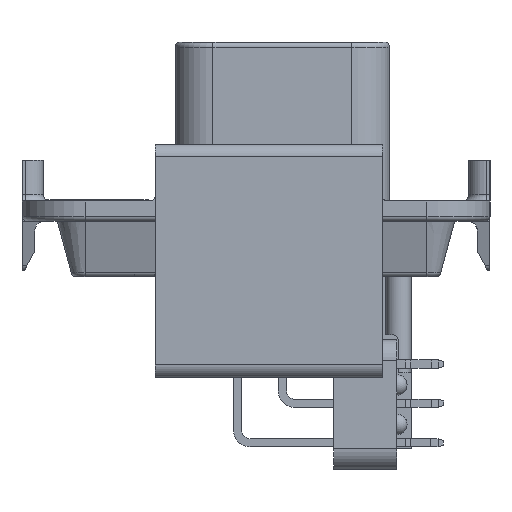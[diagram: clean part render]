
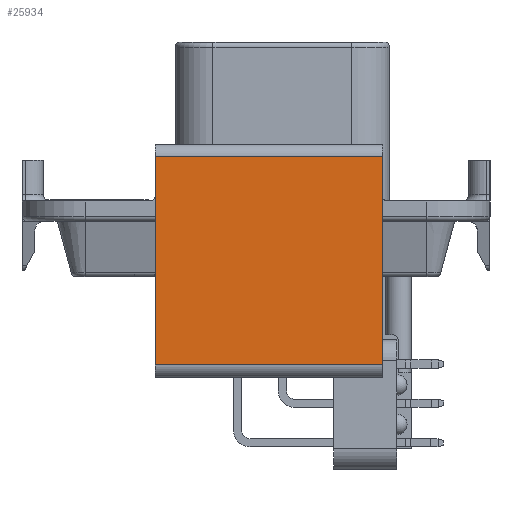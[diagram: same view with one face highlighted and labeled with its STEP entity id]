
A CAD part, left-side view. The second image highlights one B-rep face of the part: STEP entity #25934.
In plain terms, the highlighted planar face has unit normal (-1, 0, 0).
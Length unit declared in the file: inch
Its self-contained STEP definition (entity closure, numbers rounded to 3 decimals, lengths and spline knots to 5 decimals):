
#7979=DIRECTION('',(0.,0.,1.));
#7980=VECTOR('',#7979,0.825);
#7981=CARTESIAN_POINT('',(-3.7,0.5045,-0.65));
#7982=LINE('',#7981,#7980);
#8949=DIRECTION('',(0.,0.,1.));
#8950=VECTOR('',#8949,0.825);
#8951=CARTESIAN_POINT('',(-3.7,-0.3955,-0.65));
#8952=LINE('',#8951,#8950);
#8988=DIRECTION('',(0.,-1.,0.));
#8989=VECTOR('',#8988,0.9);
#8990=CARTESIAN_POINT('',(-3.7,0.5045,-0.65));
#8991=LINE('',#8990,#8989);
#8992=DIRECTION('',(0.,-1.,0.));
#8993=VECTOR('',#8992,0.9);
#8994=CARTESIAN_POINT('',(-3.7,0.5045,0.175));
#8995=LINE('',#8994,#8993);
#11153=CARTESIAN_POINT('',(-3.7,0.5045,-0.65));
#11155=VERTEX_POINT('',#11153);
#11156=CARTESIAN_POINT('',(-3.7,0.5045,0.175));
#11157=VERTEX_POINT('',#11156);
#11169=CARTESIAN_POINT('',(-3.7,-0.3955,-0.65));
#11171=VERTEX_POINT('',#11169);
#11172=CARTESIAN_POINT('',(-3.7,-0.3955,0.175));
#11173=VERTEX_POINT('',#11172);
#25922=CARTESIAN_POINT('',(-3.7,0.5045,-0.65));
#25923=DIRECTION('',(1.,0.,0.));
#25924=DIRECTION('',(0.,0.,1.));
#25925=AXIS2_PLACEMENT_3D('',#25922,#25923,#25924);
#25926=PLANE('',#25925);
#25927=ORIENTED_EDGE('',*,*,#24689,.T.);
#25929=ORIENTED_EDGE('',*,*,#25928,.T.);
#25930=ORIENTED_EDGE('',*,*,#25890,.F.);
#25931=ORIENTED_EDGE('',*,*,#25915,.F.);
#25932=EDGE_LOOP('',(#25927,#25929,#25930,#25931));
#25933=FACE_OUTER_BOUND('',#25932,.F.);
#25934=ADVANCED_FACE('',(#25933),#25926,.F.);
#24689=EDGE_CURVE('',#11155,#11157,#7982,.T.);
#25890=EDGE_CURVE('',#11171,#11173,#8952,.T.);
#25915=EDGE_CURVE('',#11155,#11171,#8991,.T.);
#25928=EDGE_CURVE('',#11157,#11173,#8995,.T.);
